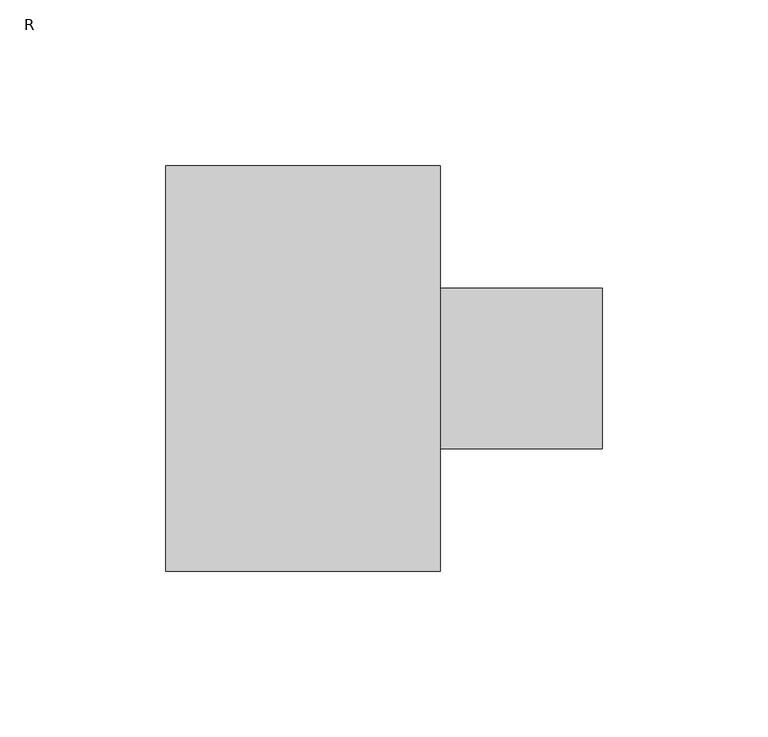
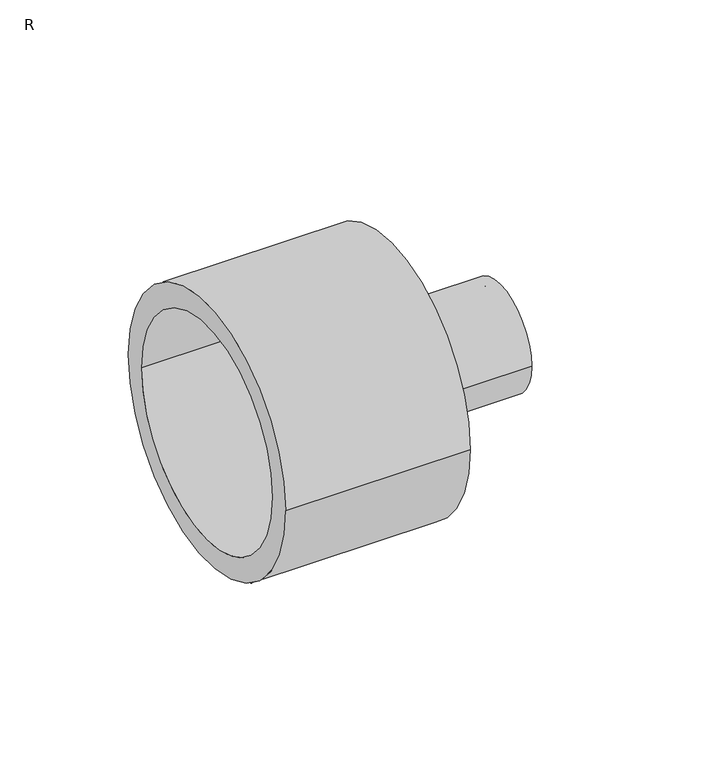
"""IFC4 building model written with IfcOpenShell, lengths in millimetres: pipe fitting geometry, FUSAPEX reducer : R."""

from ifc_helpers import new_model, si_unit, frame, origin, place, context, project, spatial, polyline, circle_curve, source, transform, mapped, element, save
from ifc_brep_helpers import plane_surface, cylinder_surface, revolved_surface, advanced_brep


def r_f4d68c18(model_context):
    return source(origin(), model_context, "Body", "AdvancedBrep", [
        advanced_brep(
        [(-83.0, 50.85, 0.0), (-83.0, -50.85, 0.0), (-13.0, -50.85, 0.0), (-13.0, 50.85, 0.0), (0.0, 61.3, 0.0), (0.0, -61.3, 0.0), (-83.0, -61.3, 0.0), (-83.0, 61.3, 0.0), (49.0, 24.25, 0.0), (49.0, -24.25, 0.0), (0.0, -24.25, 0.0), (0.0, 24.25, 0.0), (-13.0, 20.0, 0.0), (-13.0, -20.0, 0.0), (49.0, -20.0, 0.0), (49.0, 20.0, 0.0)],
        [
            (0, 1, circle_curve(frame((-83.0, 0.0, 0.0), z_axis=(-1.0, 0.0, 0.0), x_axis=(0.0, -1.0, 0.0)), 50.85)),
            (1, 2),
            (2, 3, circle_curve(frame((-13.0, 0.0, 0.0), z_axis=(1.0, 0.0, 0.0), x_axis=(0.0, -1.0, 0.0)), 50.85)),
            (3, 0),
            (4, 5, circle_curve(frame((0.0, 0.0, 0.0), z_axis=(-1.0, 0.0, 0.0), x_axis=(0.0, -1.0, 0.0)), 61.3)),
            (5, 6),
            (6, 7, circle_curve(frame((-83.0, 0.0, 0.0), z_axis=(1.0, 0.0, 0.0), x_axis=(0.0, -1.0, 0.0)), 61.3)),
            (7, 4),
            (8, 9, circle_curve(frame((49.0, 0.0, 0.0), z_axis=(-1.0, 0.0, 0.0), x_axis=(0.0, -1.0, 0.0)), 24.25)),
            (9, 10),
            (10, 11, circle_curve(frame((0.0, 0.0, 0.0), z_axis=(1.0, 0.0, 0.0), x_axis=(0.0, -1.0, 0.0)), 24.25)),
            (11, 8),
            (12, 13, circle_curve(frame((-13.0, 0.0, 0.0), z_axis=(-1.0, 0.0, 0.0), x_axis=(0.0, -1.0, 0.0)), 20.0)),
            (13, 14),
            (14, 15, circle_curve(frame((49.0, 0.0, 0.0), z_axis=(1.0, 0.0, 0.0), x_axis=(0.0, -1.0, 0.0)), 20.0)),
            (15, 12),
            (1, 0, circle_curve(frame((-83.0, 0.0, 0.0), z_axis=(-1.0, 0.0, 0.0), x_axis=(0.0, 1.0, 0.0)), 50.85)),
            (3, 2, circle_curve(frame((-13.0, 0.0, 0.0), z_axis=(1.0, 0.0, 0.0), x_axis=(0.0, 1.0, 0.0)), 50.85)),
            (6, 7, circle_curve(frame((-83.0, 0.0, 0.0), z_axis=(-1.0, 0.0, 0.0), x_axis=(0.0, 1.0, 0.0)), 61.3)),
            (5, 4, circle_curve(frame((0.0, 0.0, 0.0), z_axis=(-1.0, 0.0, 0.0), x_axis=(0.0, 1.0, 0.0)), 61.3)),
            (10, 11, circle_curve(frame((0.0, 0.0, 0.0), z_axis=(-1.0, 0.0, 0.0), x_axis=(0.0, 1.0, 0.0)), 24.25)),
            (9, 8, circle_curve(frame((49.0, 0.0, 0.0), z_axis=(-1.0, 0.0, 0.0), x_axis=(0.0, 1.0, 0.0)), 24.25)),
            (14, 15, circle_curve(frame((49.0, 0.0, 0.0), z_axis=(-1.0, 0.0, 0.0), x_axis=(0.0, 1.0, 0.0)), 20.0)),
            (13, 12, circle_curve(frame((-13.0, 0.0, 0.0), z_axis=(-1.0, 0.0, 0.0), x_axis=(0.0, 1.0, 0.0)), 20.0)),
        ],
        [
            revolved_surface(polyline([(-13.0, -50.85, 0.0), (-83.0, -50.85, 0.0)]), (0.0, 0.0, 0.0), (1.0, 0.0, 0.0)),
            cylinder_surface(frame((0.0, 0.0, 0.0), z_axis=(1.0, 0.0, 0.0), x_axis=(0.0, -1.0, 0.0)), 61.3),
            cylinder_surface(frame((0.0, 0.0, 0.0), z_axis=(1.0, 0.0, 0.0), x_axis=(0.0, -1.0, 0.0)), 24.25),
            revolved_surface(polyline([(49.0, -20.0, 0.0), (-13.0, -20.0, 0.0)]), (0.0, 0.0, 0.0), (1.0, 0.0, 0.0)),
            revolved_surface(polyline([(-13.0, 50.85, 0.0), (-83.0, 50.85, 0.0)]), (0.0, 0.0, 0.0), (1.0, 0.0, 0.0)),
            plane_surface(frame((-83.0, 0.0, 0.0), z_axis=(-1.0, 0.0, 0.0), x_axis=(0.0, 1.0, 0.0))),
            cylinder_surface(frame((0.0, 0.0, 0.0), z_axis=(1.0, 0.0, 0.0), x_axis=(0.0, 1.0, 0.0)), 61.3),
            plane_surface(frame((0.0, 0.0, 0.0), z_axis=(1.0, 0.0, 0.0), x_axis=(0.0, 1.0, 0.0))),
            cylinder_surface(frame((0.0, 0.0, 0.0), z_axis=(1.0, 0.0, 0.0), x_axis=(0.0, 1.0, 0.0)), 24.25),
            plane_surface(frame((49.0, 0.0, 0.0), z_axis=(1.0, 0.0, 0.0), x_axis=(0.0, 1.0, 0.0))),
            revolved_surface(polyline([(49.0, 20.0, 0.0), (-13.0, 20.0, 0.0)]), (0.0, 0.0, 0.0), (1.0, 0.0, 0.0)),
            plane_surface(frame((-13.0, 0.0, 0.0), z_axis=(-1.0, 0.0, 0.0), x_axis=(0.0, 1.0, 0.0))),
        ],
        [
            (0, [[1, 2, 3, 4]]),
            (1, [[5, 6, 7, 8]]),
            (2, [[9, 10, 11, 12]]),
            (3, [[13, 14, 15, 16]]),
            (4, [[17, -4, 18, -2]]),
            (5, [[19, -7], [-17, -1]]),
            (6, [[20, -8, -19, -6]]),
            (7, [[-20, -5], [21, -11]]),
            (8, [[22, -12, -21, -10]]),
            (9, [[-22, -9], [23, -15]]),
            (10, [[24, -16, -23, -14]]),
            (11, [[-18, -3], [-24, -13]]),
        ],
    ),
    ])


if __name__ == "__main__":
    model = new_model("IFC4")
    model_context = context("Model", 3, world=origin())
    ifc_project = project(units=[si_unit("LENGTHUNIT", "METRE", prefix="MILLI")], contexts=[model_context])
    site = spatial("IfcSite", under=ifc_project)
    building = spatial("IfcBuilding", under=site)
    placement = place(None, origin())
    r_shape = r_f4d68c18(model_context)
    element("IfcPipeFitting", 1, ObjectType="FUSAPEX reducer : R", at=placement, inside=building, context=model_context, shape_type="MappedRepresentation", body=[
        mapped(r_shape, transform((0.0, 0.0, 0.0), x_axis=(1.0, 0.0, 0.0), y_axis=(0.0, 1.0, 0.0), z_axis=(0.0, 0.0, 1.0))),
    ])
    save(model, "model.ifc")
